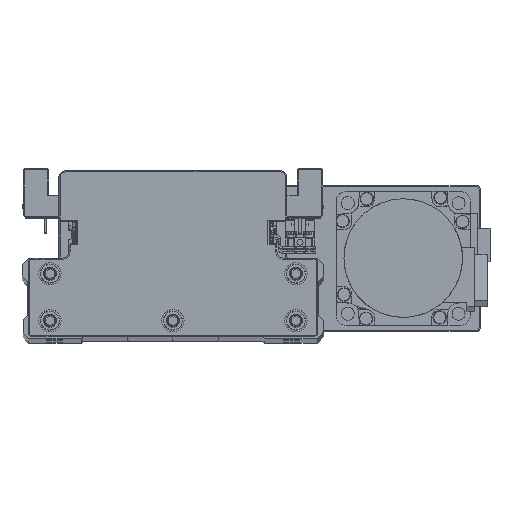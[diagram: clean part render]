
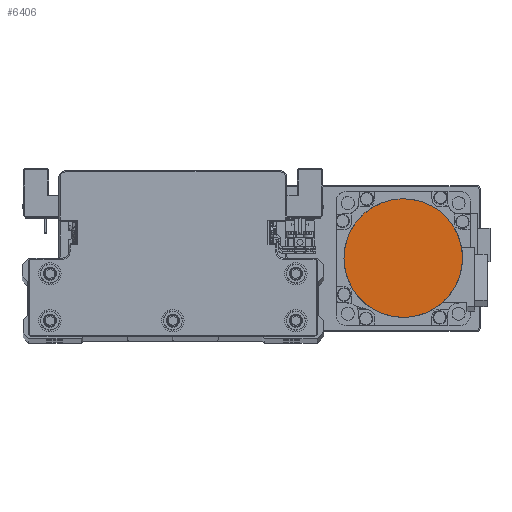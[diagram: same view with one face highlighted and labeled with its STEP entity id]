
A CAD part, top view. The second image highlights one B-rep face of the part: STEP entity #6406.
In plain terms, the highlighted planar face has unit normal (0, 0, 1) as drawn and (0, 0, -1) by its records, which use the part's own axes.
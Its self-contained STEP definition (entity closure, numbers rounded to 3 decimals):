
#204 = CARTESIAN_POINT ( 'NONE',  ( 25.652, 6.871, -109.7 ) ) ;
#404 = CARTESIAN_POINT ( 'NONE',  ( 1.734, 26.5, -109.7 ) ) ;
#602 = CARTESIAN_POINT ( 'NONE',  ( -25.147, 8.539, -109.7 ) ) ;
#720 = CARTESIAN_POINT ( 'NONE',  ( -22.998, -13.28, -109.7 ) ) ;
#941 = CARTESIAN_POINT ( 'NONE',  ( 6.871, -25.652, -109.7 ) ) ;
#1137 = CARTESIAN_POINT ( 'NONE',  ( 26.5, -1.734, -109.7 ) ) ;
#3315 = CARTESIAN_POINT ( 'NONE',  ( 26.5, 0., -109.7 ) ) ;
#3528 = CARTESIAN_POINT ( 'NONE',  ( 8.539, 25.147, -109.7 ) ) ;
#3724 = CARTESIAN_POINT ( 'NONE',  ( -21.07, 16.165, -109.7 ) ) ;
#3837 = CARTESIAN_POINT ( 'NONE',  ( -25.652, -6.871, -109.7 ) ) ;
#4050 = CARTESIAN_POINT ( 'NONE',  ( -1.734, -26.5, -109.7 ) ) ;
#4262 = CARTESIAN_POINT ( 'NONE',  ( 25.147, -8.539, -109.7 ) ) ;
#4862 = AXIS2_PLACEMENT_3D ( 'NONE', #34316, #5741, #18454 ) ;
#5741 = DIRECTION ( 'NONE',  ( 0., 0., 1. ) ) ;
#6406 = ADVANCED_FACE ( 'NONE', ( #8881 ), #21598, .F. ) ;
#6640 = CARTESIAN_POINT ( 'NONE',  ( 16.165, 21.07, -109.7 ) ) ;
#6850 = CARTESIAN_POINT ( 'NONE',  ( -16.165, 21.07, -109.7 ) ) ;
#6970 = CARTESIAN_POINT ( 'NONE',  ( -26.5, 0., -109.7 ) ) ;
#7158 = CARTESIAN_POINT ( 'NONE',  ( -8.539, -25.147, -109.7 ) ) ;
#7372 = CARTESIAN_POINT ( 'NONE',  ( 21.07, -16.165, -109.7 ) ) ;
#7713 = VERTEX_POINT ( 'NONE', #33552 ) ;
#8315 = EDGE_LOOP ( 'NONE', ( #26397, #40548 ) ) ;
#8881 = FACE_OUTER_BOUND ( 'NONE', #8315, .T. ) ;
#9778 = CARTESIAN_POINT ( 'NONE',  ( 21.07, 16.165, -109.7 ) ) ;
#9987 = CARTESIAN_POINT ( 'NONE',  ( -8.539, 25.147, -109.7 ) ) ;
#10200 = CARTESIAN_POINT ( 'NONE',  ( -26.5, 0., -109.7 ) ) ;
#10323 = CARTESIAN_POINT ( 'NONE',  ( -16.165, -21.07, -109.7 ) ) ;
#10516 = CARTESIAN_POINT ( 'NONE',  ( 16.165, -21.07, -109.7 ) ) ;
#12932 = CARTESIAN_POINT ( 'NONE',  ( 25.147, 8.539, -109.7 ) ) ;
#13122 = CARTESIAN_POINT ( 'NONE',  ( -1.734, 26.5, -109.7 ) ) ;
#13324 = CARTESIAN_POINT ( 'NONE',  ( -25.652, 6.871, -109.7 ) ) ;
#13439 = CARTESIAN_POINT ( 'NONE',  ( -21.07, -16.165, -109.7 ) ) ;
#13535 = CARTESIAN_POINT ( 'NONE',  ( 26.5, 0., -109.7 ) ) ;
#13658 = CARTESIAN_POINT ( 'NONE',  ( 8.539, -25.147, -109.7 ) ) ;
#13853 = CARTESIAN_POINT ( 'NONE',  ( 26.5, 0., -109.7 ) ) ;
#16032 = CARTESIAN_POINT ( 'NONE',  ( 26.5, 1.734, -109.7 ) ) ;
#16250 = CARTESIAN_POINT ( 'NONE',  ( 6.871, 25.652, -109.7 ) ) ;
#16440 = CARTESIAN_POINT ( 'NONE',  ( -22.998, 13.28, -109.7 ) ) ;
#16555 = CARTESIAN_POINT ( 'NONE',  ( -25.147, -8.539, -109.7 ) ) ;
#16768 = CARTESIAN_POINT ( 'NONE',  ( 1.734, -26.5, -109.7 ) ) ;
#16981 = CARTESIAN_POINT ( 'NONE',  ( 25.652, -6.871, -109.7 ) ) ;
#18296 = EDGE_CURVE ( 'NONE', #18313, #7713, #26670, .T. ) ;
#18313 = VERTEX_POINT ( 'NONE', #13535 ) ;
#18454 = DIRECTION ( 'NONE',  ( 1., 0., 0. ) ) ;
#19357 = CARTESIAN_POINT ( 'NONE',  ( 13.28, 22.998, -109.7 ) ) ;
#19577 = CARTESIAN_POINT ( 'NONE',  ( -17.512, 19.965, -109.7 ) ) ;
#19687 = CARTESIAN_POINT ( 'NONE',  ( -26.5, -1.734, -109.7 ) ) ;
#19884 = CARTESIAN_POINT ( 'NONE',  ( -6.871, -25.652, -109.7 ) ) ;
#20100 = CARTESIAN_POINT ( 'NONE',  ( 22.998, -13.28, -109.7 ) ) ;
#20263 = EDGE_CURVE ( 'NONE', #7713, #18313, #21028, .T. ) ;
#21028 = B_SPLINE_CURVE_WITH_KNOTS ( 'NONE', 3,
 ( #6970, #19687, #32404, #3837, #16555, #29291, #720, #13439, #26164, #38904, #10323, #23033, #35749, #7158, #19884, #32607, #4050, #16768, #29494, #941, #13658, #26371, #39105, #10516, #23228, #35950, #7372, #20100, #32823, #4262, #16981, #29704, #1137, #13853 ),
 .UNSPECIFIED., .F., .F.,
 ( 4, 2, 2, 2, 2, 2, 2, 2, 2, 2, 2, 2, 2, 2, 2, 2, 4 ),
 ( 0., 0.063, 0.125, 0.188, 0.25, 0.312, 0.375, 0.437, 0.5, 0.562, 0.625, 0.687, 0.75, 0.813, 0.875, 0.938, 1. ),
 .UNSPECIFIED. ) ;
#21598 = PLANE ( 'NONE',  #4862 ) ;
#22499 = CARTESIAN_POINT ( 'NONE',  ( 19.965, 17.512, -109.7 ) ) ;
#22704 = CARTESIAN_POINT ( 'NONE',  ( -11.744, 23.819, -109.7 ) ) ;
#23033 = CARTESIAN_POINT ( 'NONE',  ( -13.28, -22.998, -109.7 ) ) ;
#23228 = CARTESIAN_POINT ( 'NONE',  ( 17.512, -19.965, -109.7 ) ) ;
#25642 = CARTESIAN_POINT ( 'NONE',  ( 23.819, 11.744, -109.7 ) ) ;
#25836 = CARTESIAN_POINT ( 'NONE',  ( -3.469, 26.329, -109.7 ) ) ;
#26046 = CARTESIAN_POINT ( 'NONE',  ( -26.329, 3.469, -109.7 ) ) ;
#26164 = CARTESIAN_POINT ( 'NONE',  ( -19.965, -17.512, -109.7 ) ) ;
#26371 = CARTESIAN_POINT ( 'NONE',  ( 11.744, -23.819, -109.7 ) ) ;
#26397 = ORIENTED_EDGE ( 'NONE', *, *, #18296, .F. ) ;
#26670 = B_SPLINE_CURVE_WITH_KNOTS ( 'NONE', 3,
 ( #3315, #16032, #28769, #204, #12932, #25642, #38373, #9778, #22499, #35221, #6640, #19357, #32087, #3528, #16250, #28977, #404, #13122, #25836, #38568, #9987, #22704, #35424, #6850, #19577, #32299, #3724, #16440, #29174, #602, #13324, #26046, #38779, #10200 ),
 .UNSPECIFIED., .F., .F.,
 ( 4, 2, 2, 2, 2, 2, 2, 2, 2, 2, 2, 2, 2, 2, 2, 2, 4 ),
 ( 0., 0.062, 0.125, 0.187, 0.25, 0.312, 0.375, 0.437, 0.5, 0.562, 0.625, 0.687, 0.75, 0.813, 0.875, 0.938, 1. ),
 .UNSPECIFIED. ) ;
#28769 = CARTESIAN_POINT ( 'NONE',  ( 26.329, 3.469, -109.7 ) ) ;
#28977 = CARTESIAN_POINT ( 'NONE',  ( 3.469, 26.329, -109.7 ) ) ;
#29174 = CARTESIAN_POINT ( 'NONE',  ( -23.819, 11.744, -109.7 ) ) ;
#29291 = CARTESIAN_POINT ( 'NONE',  ( -23.819, -11.744, -109.7 ) ) ;
#29494 = CARTESIAN_POINT ( 'NONE',  ( 3.469, -26.329, -109.7 ) ) ;
#29704 = CARTESIAN_POINT ( 'NONE',  ( 26.329, -3.469, -109.7 ) ) ;
#32087 = CARTESIAN_POINT ( 'NONE',  ( 11.744, 23.819, -109.7 ) ) ;
#32299 = CARTESIAN_POINT ( 'NONE',  ( -19.965, 17.512, -109.7 ) ) ;
#32404 = CARTESIAN_POINT ( 'NONE',  ( -26.329, -3.469, -109.7 ) ) ;
#32607 = CARTESIAN_POINT ( 'NONE',  ( -3.469, -26.329, -109.7 ) ) ;
#32823 = CARTESIAN_POINT ( 'NONE',  ( 23.819, -11.744, -109.7 ) ) ;
#33552 = CARTESIAN_POINT ( 'NONE',  ( -26.5, 0., -109.7 ) ) ;
#34316 = CARTESIAN_POINT ( 'NONE',  ( 0., 0., -109.7 ) ) ;
#35221 = CARTESIAN_POINT ( 'NONE',  ( 17.512, 19.965, -109.7 ) ) ;
#35424 = CARTESIAN_POINT ( 'NONE',  ( -13.28, 22.998, -109.7 ) ) ;
#35749 = CARTESIAN_POINT ( 'NONE',  ( -11.744, -23.819, -109.7 ) ) ;
#35950 = CARTESIAN_POINT ( 'NONE',  ( 19.965, -17.512, -109.7 ) ) ;
#38373 = CARTESIAN_POINT ( 'NONE',  ( 22.998, 13.28, -109.7 ) ) ;
#38568 = CARTESIAN_POINT ( 'NONE',  ( -6.871, 25.652, -109.7 ) ) ;
#38779 = CARTESIAN_POINT ( 'NONE',  ( -26.5, 1.734, -109.7 ) ) ;
#38904 = CARTESIAN_POINT ( 'NONE',  ( -17.512, -19.965, -109.7 ) ) ;
#39105 = CARTESIAN_POINT ( 'NONE',  ( 13.28, -22.998, -109.7 ) ) ;
#40548 = ORIENTED_EDGE ( 'NONE', *, *, #20263, .F. ) ;
